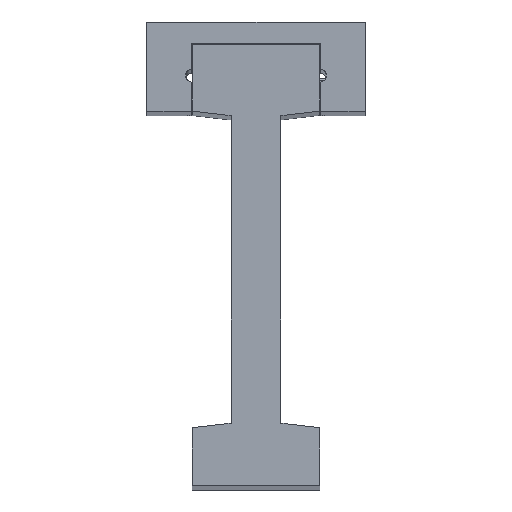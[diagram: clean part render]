
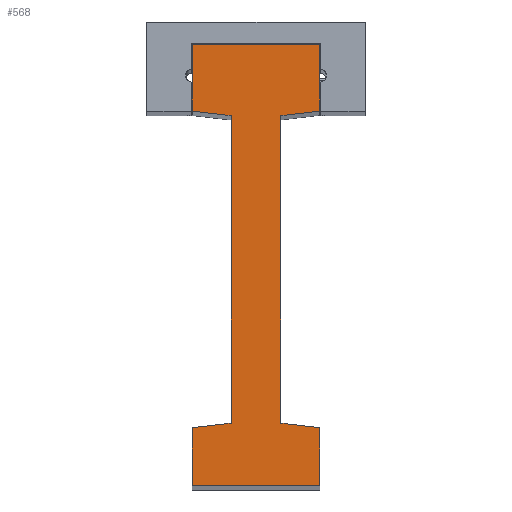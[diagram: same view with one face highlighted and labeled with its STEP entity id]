
A CAD part, top view. The second image highlights one B-rep face of the part: STEP entity #568.
In plain terms, the highlighted planar face has unit normal (0, 0, 1).
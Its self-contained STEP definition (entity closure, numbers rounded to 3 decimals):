
#104 = CARTESIAN_POINT ( 'NONE',  ( 57.95, 217.204, 845.517 ) ) ;
#482 = VERTEX_POINT ( 'NONE', #9672 ) ;
#559 = VECTOR ( 'NONE', #1585, 1000. ) ;
#568 = ADVANCED_FACE ( 'NONE', ( #2421 ), #5005, .T. ) ;
#666 = CARTESIAN_POINT ( 'NONE',  ( 57.95, 217.204, 845.517 ) ) ;
#797 = EDGE_CURVE ( 'NONE', #2407, #3836, #1560, .T. ) ;
#812 = LINE ( 'NONE', #5857, #896 ) ;
#896 = VECTOR ( 'NONE', #10105, 1000. ) ;
#914 = CARTESIAN_POINT ( 'NONE',  ( 77.8, 231.204, 845.517 ) ) ;
#962 = CARTESIAN_POINT ( 'NONE',  ( 77.8, 231.204, 845.517 ) ) ;
#970 = AXIS2_PLACEMENT_3D ( 'NONE', #104, #9507, #3332 ) ;
#1143 = EDGE_CURVE ( 'NONE', #3644, #10971, #7588, .T. ) ;
#1157 = VECTOR ( 'NONE', #7437, 1000. ) ;
#1389 = CARTESIAN_POINT ( 'NONE',  ( 86.45, 217.204, 845.517 ) ) ;
#1417 = VECTOR ( 'NONE', #4551, 1000. ) ;
#1560 = LINE ( 'NONE', #1389, #1157 ) ;
#1585 = DIRECTION ( 'NONE',  ( -0.993, -0.115, 0. ) ) ;
#1591 = VECTOR ( 'NONE', #3701, 1000. ) ;
#1685 = EDGE_LOOP ( 'NONE', ( #6543, #6849, #5844, #10167, #2815, #6128, #2255, #4908, #7887, #10099, #6150, #7002 ) ) ;
#1726 = EDGE_CURVE ( 'NONE', #2120, #4978, #4637, .T. ) ;
#1739 = VECTOR ( 'NONE', #6408, 1000. ) ;
#2049 = CARTESIAN_POINT ( 'NONE',  ( 57.95, 301.204, 845.517 ) ) ;
#2120 = VERTEX_POINT ( 'NONE', #8890 ) ;
#2255 = ORIENTED_EDGE ( 'NONE', *, *, #797, .T. ) ;
#2407 = VERTEX_POINT ( 'NONE', #6074 ) ;
#2421 = FACE_OUTER_BOUND ( 'NONE', #1685, .T. ) ;
#2493 = LINE ( 'NONE', #5962, #559 ) ;
#2549 = CARTESIAN_POINT ( 'NONE',  ( 66.6, 300.204, 845.517 ) ) ;
#2815 = ORIENTED_EDGE ( 'NONE', *, *, #5752, .T. ) ;
#2957 = EDGE_CURVE ( 'NONE', #3836, #10870, #8640, .T. ) ;
#3332 = DIRECTION ( 'NONE',  ( 1., 0., 0. ) ) ;
#3504 = VECTOR ( 'NONE', #4409, 1000. ) ;
#3512 = EDGE_CURVE ( 'NONE', #4978, #482, #9287, .T. ) ;
#3644 = VERTEX_POINT ( 'NONE', #2549 ) ;
#3701 = DIRECTION ( 'NONE',  ( -0.993, 0.115, 0. ) ) ;
#3836 = VERTEX_POINT ( 'NONE', #4890 ) ;
#4128 = DIRECTION ( 'NONE',  ( 1., 0., 0. ) ) ;
#4189 = VERTEX_POINT ( 'NONE', #8451 ) ;
#4409 = DIRECTION ( 'NONE',  ( 0., 1., 0. ) ) ;
#4545 = EDGE_CURVE ( 'NONE', #10870, #4189, #5294, .T. ) ;
#4551 = DIRECTION ( 'NONE',  ( 0., 1., 0. ) ) ;
#4637 = LINE ( 'NONE', #6519, #1739 ) ;
#4667 = LINE ( 'NONE', #8984, #1417 ) ;
#4890 = CARTESIAN_POINT ( 'NONE',  ( 86.45, 230.204, 845.517 ) ) ;
#4908 = ORIENTED_EDGE ( 'NONE', *, *, #2957, .T. ) ;
#4978 = VERTEX_POINT ( 'NONE', #10631 ) ;
#5005 = PLANE ( 'NONE',  #970 ) ;
#5294 = LINE ( 'NONE', #962, #3504 ) ;
#5438 = LINE ( 'NONE', #2049, #1591 ) ;
#5589 = CARTESIAN_POINT ( 'NONE',  ( 57.95, 230.204, 845.517 ) ) ;
#5752 = EDGE_CURVE ( 'NONE', #10450, #7893, #5766, .T. ) ;
#5766 = LINE ( 'NONE', #6610, #10636 ) ;
#5801 = CARTESIAN_POINT ( 'NONE',  ( 86.45, 301.204, 845.517 ) ) ;
#5844 = ORIENTED_EDGE ( 'NONE', *, *, #1143, .T. ) ;
#5857 = CARTESIAN_POINT ( 'NONE',  ( 86.45, 301.204, 845.517 ) ) ;
#5896 = DIRECTION ( 'NONE',  ( 0., -1., 0. ) ) ;
#5962 = CARTESIAN_POINT ( 'NONE',  ( 66.6, 231.204, 845.517 ) ) ;
#6074 = CARTESIAN_POINT ( 'NONE',  ( 86.45, 217.204, 845.517 ) ) ;
#6092 = EDGE_CURVE ( 'NONE', #4189, #9720, #812, .T. ) ;
#6128 = ORIENTED_EDGE ( 'NONE', *, *, #8263, .T. ) ;
#6150 = ORIENTED_EDGE ( 'NONE', *, *, #8118, .T. ) ;
#6408 = DIRECTION ( 'NONE',  ( -1., 0., 0. ) ) ;
#6519 = CARTESIAN_POINT ( 'NONE',  ( 86.45, 316.204, 845.517 ) ) ;
#6543 = ORIENTED_EDGE ( 'NONE', *, *, #3512, .T. ) ;
#6610 = CARTESIAN_POINT ( 'NONE',  ( 57.95, 230.204, 845.517 ) ) ;
#6722 = CARTESIAN_POINT ( 'NONE',  ( 57.95, 217.204, 845.517 ) ) ;
#6834 = DIRECTION ( 'NONE',  ( -0.993, 0.115, 0. ) ) ;
#6849 = ORIENTED_EDGE ( 'NONE', *, *, #9327, .F. ) ;
#7002 = ORIENTED_EDGE ( 'NONE', *, *, #1726, .T. ) ;
#7437 = DIRECTION ( 'NONE',  ( 0., 1., 0. ) ) ;
#7499 = LINE ( 'NONE', #666, #11189 ) ;
#7588 = LINE ( 'NONE', #10370, #8384 ) ;
#7887 = ORIENTED_EDGE ( 'NONE', *, *, #4545, .T. ) ;
#7893 = VERTEX_POINT ( 'NONE', #6722 ) ;
#8118 = EDGE_CURVE ( 'NONE', #9720, #2120, #4667, .T. ) ;
#8263 = EDGE_CURVE ( 'NONE', #7893, #2407, #7499, .T. ) ;
#8384 = VECTOR ( 'NONE', #11171, 1000. ) ;
#8451 = CARTESIAN_POINT ( 'NONE',  ( 77.8, 300.204, 845.517 ) ) ;
#8640 = LINE ( 'NONE', #10253, #9160 ) ;
#8709 = CARTESIAN_POINT ( 'NONE',  ( 66.6, 231.204, 845.517 ) ) ;
#8890 = CARTESIAN_POINT ( 'NONE',  ( 86.45, 316.204, 845.517 ) ) ;
#8984 = CARTESIAN_POINT ( 'NONE',  ( 86.45, 301.204, 845.517 ) ) ;
#8989 = VECTOR ( 'NONE', #5896, 1000. ) ;
#9104 = DIRECTION ( 'NONE',  ( 0., -1., 0. ) ) ;
#9160 = VECTOR ( 'NONE', #6834, 1000. ) ;
#9237 = CARTESIAN_POINT ( 'NONE',  ( 57.95, 316.204, 845.517 ) ) ;
#9287 = LINE ( 'NONE', #9237, #8989 ) ;
#9327 = EDGE_CURVE ( 'NONE', #3644, #482, #5438, .T. ) ;
#9507 = DIRECTION ( 'NONE',  ( 0., 0., 1. ) ) ;
#9672 = CARTESIAN_POINT ( 'NONE',  ( 57.95, 301.204, 845.517 ) ) ;
#9680 = EDGE_CURVE ( 'NONE', #10971, #10450, #2493, .T. ) ;
#9720 = VERTEX_POINT ( 'NONE', #5801 ) ;
#10099 = ORIENTED_EDGE ( 'NONE', *, *, #6092, .T. ) ;
#10105 = DIRECTION ( 'NONE',  ( 0.993, 0.115, 0. ) ) ;
#10167 = ORIENTED_EDGE ( 'NONE', *, *, #9680, .T. ) ;
#10253 = CARTESIAN_POINT ( 'NONE',  ( 86.45, 230.204, 845.517 ) ) ;
#10370 = CARTESIAN_POINT ( 'NONE',  ( 66.6, 298.704, 845.517 ) ) ;
#10450 = VERTEX_POINT ( 'NONE', #5589 ) ;
#10631 = CARTESIAN_POINT ( 'NONE',  ( 57.95, 316.204, 845.517 ) ) ;
#10636 = VECTOR ( 'NONE', #9104, 1000. ) ;
#10870 = VERTEX_POINT ( 'NONE', #914 ) ;
#10971 = VERTEX_POINT ( 'NONE', #8709 ) ;
#11171 = DIRECTION ( 'NONE',  ( 0., -1., 0. ) ) ;
#11189 = VECTOR ( 'NONE', #4128, 1000. ) ;
